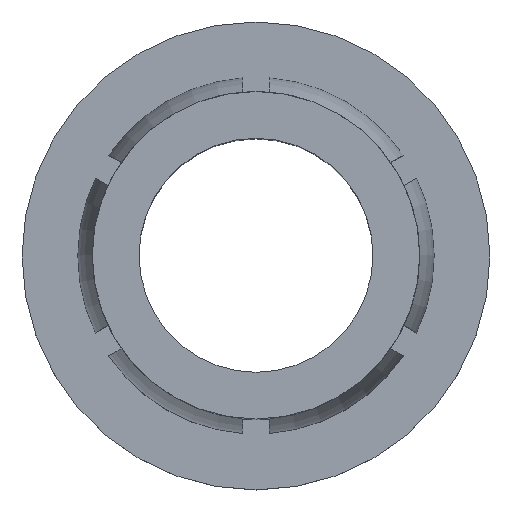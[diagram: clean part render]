
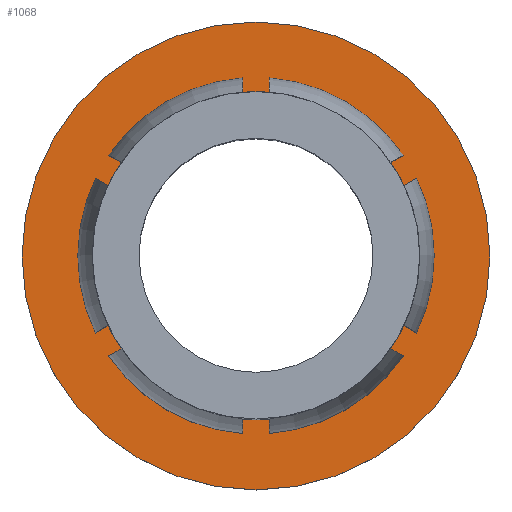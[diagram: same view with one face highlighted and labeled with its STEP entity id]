
A CAD part, top view. The second image highlights one B-rep face of the part: STEP entity #1068.
In plain terms, the highlighted planar face has unit normal (0, 0, 1).
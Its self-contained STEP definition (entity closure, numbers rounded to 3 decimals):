
#65 = DIRECTION ( 'NONE',  ( -1., 0., 0. ) ) ;
#66 = CARTESIAN_POINT ( 'NONE',  ( 1.235, 0., -21.005 ) ) ;
#143 = EDGE_LOOP ( 'NONE', ( #482 ) ) ;
#178 = CARTESIAN_POINT ( 'NONE',  ( 6.134, 0., -21.005 ) ) ;
#434 = CARTESIAN_POINT ( 'NONE',  ( 13.134, 0., -21.005 ) ) ;
#482 = ORIENTED_EDGE ( 'NONE', *, *, #1274, .T. ) ;
#560 = VERTEX_POINT ( 'NONE', #66 ) ;
#571 = AXIS2_PLACEMENT_3D ( 'NONE', #178, #1182, #1085 ) ;
#743 = CIRCLE ( 'NONE', #571, 7. ) ;
#836 = FACE_BOUND ( 'NONE', #143, .T. ) ;
#869 = EDGE_LOOP ( 'NONE', ( #1559 ) ) ;
#928 = CARTESIAN_POINT ( 'NONE',  ( 6.134, 0., -21.005 ) ) ;
#1045 = FACE_OUTER_BOUND ( 'NONE', #869, .T. ) ;
#1050 = EDGE_CURVE ( 'NONE', #1210, #1210, #743, .T. ) ;
#1068 = ADVANCED_FACE ( 'NONE', ( #1045, #836 ), #1431, .F. ) ;
#1085 = DIRECTION ( 'NONE',  ( -1., 0., 0. ) ) ;
#1087 = DIRECTION ( 'NONE',  ( -1., 0., 0. ) ) ;
#1132 = DIRECTION ( 'NONE',  ( 0., 0., -1. ) ) ;
#1143 = CIRCLE ( 'NONE', #1156, 4.899 ) ;
#1156 = AXIS2_PLACEMENT_3D ( 'NONE', #928, #1225, #1087 ) ;
#1182 = DIRECTION ( 'NONE',  ( 0., 0., -1. ) ) ;
#1210 = VERTEX_POINT ( 'NONE', #1307 ) ;
#1225 = DIRECTION ( 'NONE',  ( 0., 0., -1. ) ) ;
#1274 = EDGE_CURVE ( 'NONE', #560, #560, #1143, .T. ) ;
#1307 = CARTESIAN_POINT ( 'NONE',  ( -0.866, 0., -21.005 ) ) ;
#1397 = AXIS2_PLACEMENT_3D ( 'NONE', #434, #1132, #65 ) ;
#1431 = PLANE ( 'NONE',  #1397 ) ;
#1559 = ORIENTED_EDGE ( 'NONE', *, *, #1050, .F. ) ;
